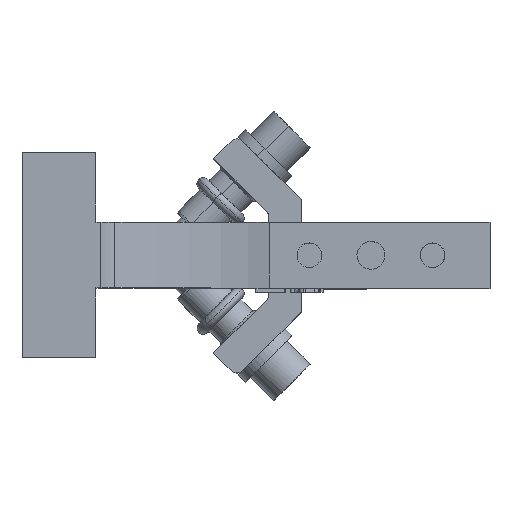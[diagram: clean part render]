
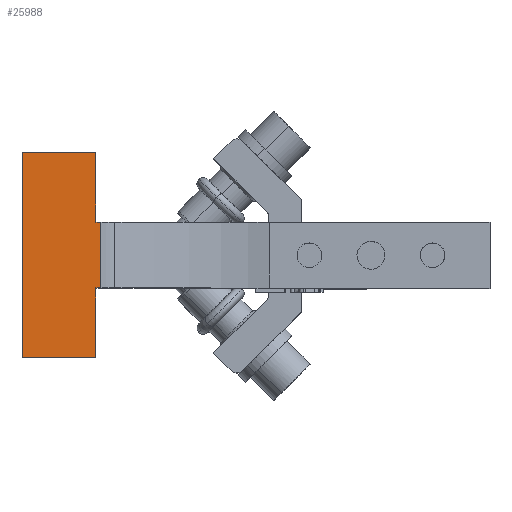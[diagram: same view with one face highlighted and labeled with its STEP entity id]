
A CAD part, top view. The second image highlights one B-rep face of the part: STEP entity #25988.
In plain terms, the highlighted planar face has unit normal (0, 0, 1).
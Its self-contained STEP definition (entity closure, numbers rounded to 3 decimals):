
#19610=CARTESIAN_POINT('Vertex',(-15.8,-8.,194.)) ;
#19613=CARTESIAN_POINT('Line Origine',(-16.4,-8.,194.)) ;
#19617=CARTESIAN_POINT('Vertex',(-17.,-8.,194.)) ;
#24967=CARTESIAN_POINT('Line Origine',(-26.,-25.,194.)) ;
#24971=CARTESIAN_POINT('Vertex',(-35.,-25.,194.)) ;
#24973=CARTESIAN_POINT('Vertex',(-17.,-25.,194.)) ;
#25014=CARTESIAN_POINT('Line Origine',(-35.,0.,194.)) ;
#25018=CARTESIAN_POINT('Vertex',(-35.,25.,194.)) ;
#25058=CARTESIAN_POINT('Vertex',(-17.,25.,194.)) ;
#25068=CARTESIAN_POINT('Line Origine',(-26.,25.,194.)) ;
#25409=CARTESIAN_POINT('Line Origine',(-17.,-16.5,194.)) ;
#25942=CARTESIAN_POINT('Line Origine',(-15.8,0.,194.)) ;
#25946=CARTESIAN_POINT('Vertex',(-15.8,8.,194.)) ;
#25961=CARTESIAN_POINT('Axis2P3D Location',(-17.,0.,194.)) ;
#25966=CARTESIAN_POINT('Line Origine',(-16.4,8.,194.)) ;
#25970=CARTESIAN_POINT('Vertex',(-17.,8.,194.)) ;
#25973=CARTESIAN_POINT('Line Origine',(-17.,16.5,194.)) ;
#19614=DIRECTION('Vector Direction',(1.,0.,0.)) ;
#24968=DIRECTION('Vector Direction',(-1.,0.,0.)) ;
#25015=DIRECTION('Vector Direction',(0.,1.,0.)) ;
#25069=DIRECTION('Vector Direction',(-1.,0.,0.)) ;
#25410=DIRECTION('Vector Direction',(0.,1.,0.)) ;
#25943=DIRECTION('Vector Direction',(0.,1.,0.)) ;
#25962=DIRECTION('Axis2P3D Direction',(0.,0.,-1.)) ;
#25963=DIRECTION('Axis2P3D XDirection',(-1.,0.,0.)) ;
#25967=DIRECTION('Vector Direction',(1.,0.,0.)) ;
#25974=DIRECTION('Vector Direction',(0.,1.,0.)) ;
#25964=AXIS2_PLACEMENT_3D('Plane Axis2P3D',#25961,#25962,#25963) ;
#25979=ORIENTED_EDGE('',*,*,#19619,.T.) ;
#25980=ORIENTED_EDGE('',*,*,#25948,.T.) ;
#25981=ORIENTED_EDGE('',*,*,#25972,.F.) ;
#25982=ORIENTED_EDGE('',*,*,#25977,.T.) ;
#25983=ORIENTED_EDGE('',*,*,#25072,.F.) ;
#25984=ORIENTED_EDGE('',*,*,#25020,.F.) ;
#25985=ORIENTED_EDGE('',*,*,#24975,.T.) ;
#25986=ORIENTED_EDGE('',*,*,#25413,.T.) ;
#19615=VECTOR('Line Direction',#19614,1.) ;
#24969=VECTOR('Line Direction',#24968,1.) ;
#25016=VECTOR('Line Direction',#25015,1.) ;
#25070=VECTOR('Line Direction',#25069,1.) ;
#25411=VECTOR('Line Direction',#25410,1.) ;
#25944=VECTOR('Line Direction',#25943,1.) ;
#25968=VECTOR('Line Direction',#25967,1.) ;
#25975=VECTOR('Line Direction',#25974,1.) ;
#25988=ADVANCED_FACE('Brep With Voids',(#25987),#25965,.F.) ;
#19619=EDGE_CURVE('',#19618,#19611,#19616,.T.) ;
#24975=EDGE_CURVE('',#24972,#24974,#24970,.F.) ;
#25020=EDGE_CURVE('',#24972,#25019,#25017,.T.) ;
#25072=EDGE_CURVE('',#25019,#25059,#25071,.F.) ;
#25413=EDGE_CURVE('',#24974,#19618,#25412,.T.) ;
#25948=EDGE_CURVE('',#19611,#25947,#25945,.T.) ;
#25972=EDGE_CURVE('',#25971,#25947,#25969,.T.) ;
#25977=EDGE_CURVE('',#25971,#25059,#25976,.T.) ;
#25978=EDGE_LOOP('',(#25979,#25980,#25981,#25982,#25983,#25984,#25985,#25986)) ;
#25987=FACE_OUTER_BOUND('',#25978,.T.) ;
#19616=LINE('Line',#19613,#19615) ;
#24970=LINE('Line',#24967,#24969) ;
#25017=LINE('Line',#25014,#25016) ;
#25071=LINE('Line',#25068,#25070) ;
#25412=LINE('Line',#25409,#25411) ;
#25945=LINE('Line',#25942,#25944) ;
#25969=LINE('Line',#25966,#25968) ;
#25976=LINE('Line',#25973,#25975) ;
#25965=PLANE('',#25964) ;
#19611=VERTEX_POINT('',#19610) ;
#19618=VERTEX_POINT('',#19617) ;
#24972=VERTEX_POINT('',#24971) ;
#24974=VERTEX_POINT('',#24973) ;
#25019=VERTEX_POINT('',#25018) ;
#25059=VERTEX_POINT('',#25058) ;
#25947=VERTEX_POINT('',#25946) ;
#25971=VERTEX_POINT('',#25970) ;
